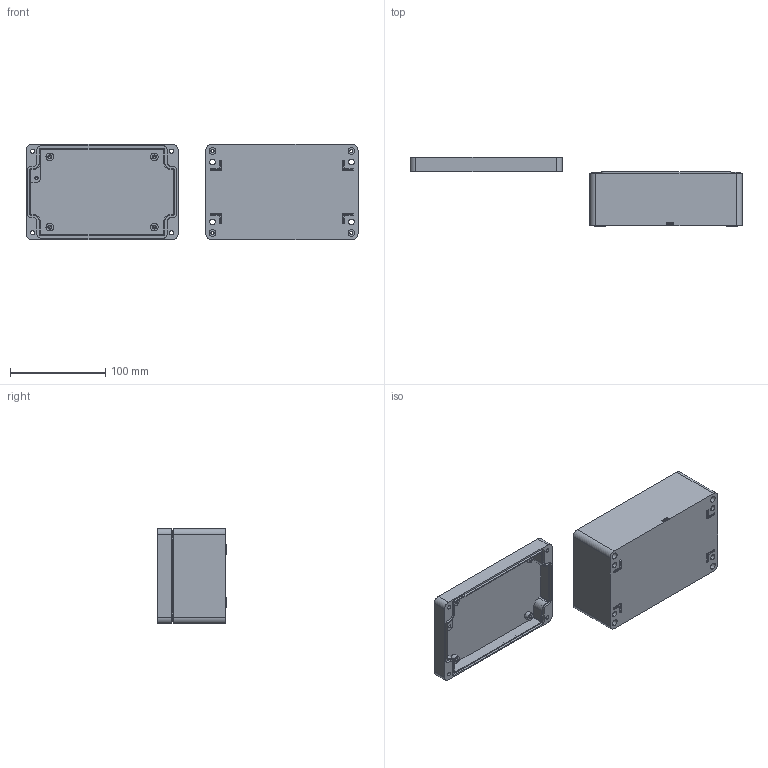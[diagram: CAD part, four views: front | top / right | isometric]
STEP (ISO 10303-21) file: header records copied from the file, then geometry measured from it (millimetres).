
FILE_DESCRIPTION (( 'STEP AP203' ), '1' );
FILE_NAME ('ZX-AL-101607_装配体.STEP', '2022-01-24T08:04:50', ( '微软用户' ), ( '微软中国' ), 'SwSTEP 2.0', 'SolidWorks 2020', '' );
FILE_SCHEMA (( 'CONFIG_CONTROL_DESIGN' ));
Length unit declared in the file: millimetre
Products named in the file (3): ZX-AL-101607_奻; ZX-AL-101607_蚾饜极; ZX-AL-101607_狟
Assembly tree (2 placements, depth 2):
  ZX-AL-101607_蚾饜极
    ZX-AL-101607_狟
    ZX-AL-101607_奻
Bounding box: 349.14 x 73.04 x 100 mm (x, y, z)
Volume: 255964.7 mm3; surface area: 145717.3 mm2
Topology: 2 solids, 2 shells, 687 faces, 1846 edges, 1199 vertices
Faces by surface type: plane 342, cylinder 172, bspline 123, cone 50
Entity records: 27249 total; most frequent: CARTESIAN_POINT 10374, ORIENTED_EDGE 3664, DIRECTION 3032, EDGE_CURVE 1832, LINE 1230, VECTOR 1230, VERTEX_POINT 1199, AXIS2_PLACEMENT_3D 901
